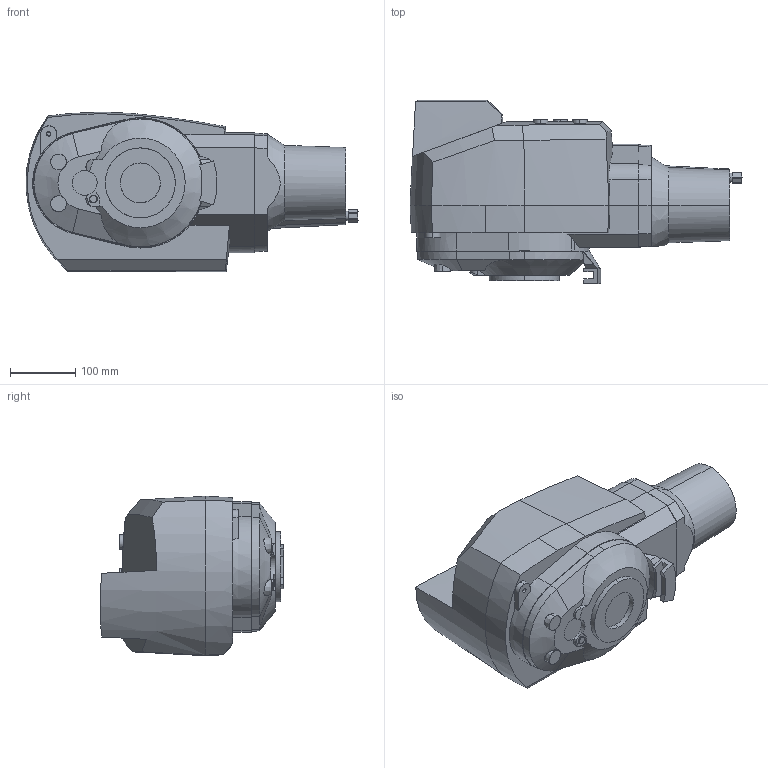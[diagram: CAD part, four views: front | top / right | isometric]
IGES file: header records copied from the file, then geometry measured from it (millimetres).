
Start section: SolidWorks IGES file using analytic representation for surfaces
Global section: file name: C:\Holley\Robot\IRB1600\CAD model\IRB1600_X-145_SW_IRC5_rev02\IRB1600_X-145_SW\IRB1600_X-145_IRC5_rev1_LINK3.IGS; native system: SolidWorks 2020; preprocessor: SolidWorks 2020; author: CNHOCHE3; date: 211129.144933; units: millimetre
Bounding box: 507.82 x 281 x 243.81 mm (x, y, z)
Volume: 16441942.4 mm3; surface area: 428907.5 mm2
Topology: 1 solids, 1 shells, 177 faces, 492 edges, 331 vertices
Faces by surface type: revolution 89, plane 61, bspline 27
